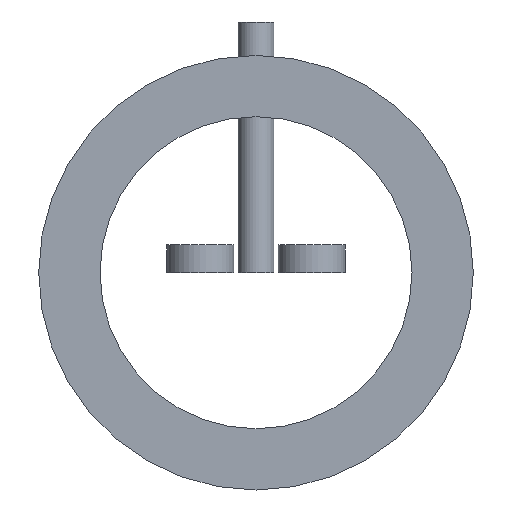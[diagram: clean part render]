
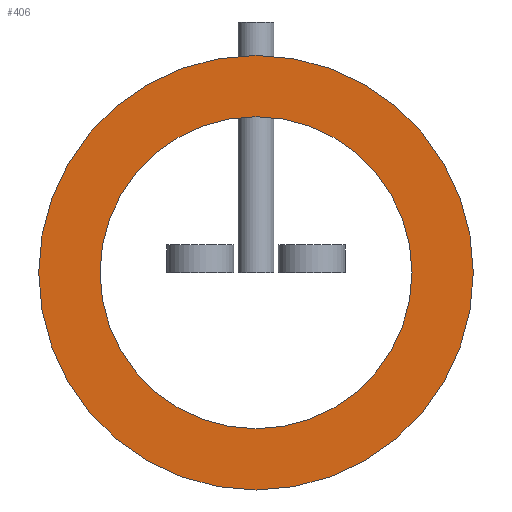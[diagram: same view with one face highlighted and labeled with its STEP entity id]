
A CAD part, front view. The second image highlights one B-rep face of the part: STEP entity #406.
In plain terms, the highlighted planar face has unit normal (0, -1, 0).
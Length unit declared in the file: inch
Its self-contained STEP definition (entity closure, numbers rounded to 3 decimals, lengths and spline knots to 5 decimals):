
#19 = EDGE_LOOP ( 'NONE', ( #327, #387 ) ) ;
#22 = CARTESIAN_POINT ( 'NONE',  ( 0., -137.79528, 0. ) ) ;
#27 = EDGE_CURVE ( 'NONE', #193, #155, #131, .T. ) ;
#33 = CARTESIAN_POINT ( 'NONE',  ( 0., -137.79528, 0. ) ) ;
#52 = AXIS2_PLACEMENT_3D ( 'NONE', #22, #425, #228 ) ;
#73 = CARTESIAN_POINT ( 'NONE',  ( 0., -137.79528, 0. ) ) ;
#85 = CARTESIAN_POINT ( 'NONE',  ( 0., -137.79528, -383.85827 ) ) ;
#89 = CARTESIAN_POINT ( 'NONE',  ( 0., -137.79528, 275.59055 ) ) ;
#92 = CIRCLE ( 'NONE', #52, 275.59055 ) ;
#119 = ORIENTED_EDGE ( 'NONE', *, *, #265, .T. ) ;
#131 = CIRCLE ( 'NONE', #451, 275.59055 ) ;
#132 = VERTEX_POINT ( 'NONE', #85 ) ;
#155 = VERTEX_POINT ( 'NONE', #89 ) ;
#185 = DIRECTION ( 'NONE',  ( 0., 1., 0. ) ) ;
#186 = EDGE_LOOP ( 'NONE', ( #119, #394 ) ) ;
#193 = VERTEX_POINT ( 'NONE', #321 ) ;
#207 = VERTEX_POINT ( 'NONE', #285 ) ;
#222 = CARTESIAN_POINT ( 'NONE',  ( 0., -137.79528, 0. ) ) ;
#228 = DIRECTION ( 'NONE',  ( 0., 0., 1. ) ) ;
#238 = DIRECTION ( 'NONE',  ( 0., 0., 1. ) ) ;
#245 = EDGE_CURVE ( 'NONE', #132, #207, #495, .T. ) ;
#247 = DIRECTION ( 'NONE',  ( 0., 1., 0. ) ) ;
#257 = AXIS2_PLACEMENT_3D ( 'NONE', #73, #185, #461 ) ;
#265 = EDGE_CURVE ( 'NONE', #155, #193, #92, .T. ) ;
#285 = CARTESIAN_POINT ( 'NONE',  ( 0., -137.79528, 383.85827 ) ) ;
#308 = FACE_BOUND ( 'NONE', #186, .T. ) ;
#316 = PLANE ( 'NONE',  #257 ) ;
#321 = CARTESIAN_POINT ( 'NONE',  ( 0., -137.79528, -275.59055 ) ) ;
#327 = ORIENTED_EDGE ( 'NONE', *, *, #388, .F. ) ;
#340 = DIRECTION ( 'NONE',  ( 0., 0., 1. ) ) ;
#346 = DIRECTION ( 'NONE',  ( 0., 1., 0. ) ) ;
#356 = FACE_OUTER_BOUND ( 'NONE', #19, .T. ) ;
#361 = AXIS2_PLACEMENT_3D ( 'NONE', #33, #374, #340 ) ;
#374 = DIRECTION ( 'NONE',  ( 0., 1., 0. ) ) ;
#387 = ORIENTED_EDGE ( 'NONE', *, *, #245, .F. ) ;
#388 = EDGE_CURVE ( 'NONE', #207, #132, #488, .T. ) ;
#394 = ORIENTED_EDGE ( 'NONE', *, *, #27, .T. ) ;
#401 = DIRECTION ( 'NONE',  ( 0., 0., 1. ) ) ;
#406 = ADVANCED_FACE ( 'NONE', ( #308, #356 ), #316, .F. ) ;
#425 = DIRECTION ( 'NONE',  ( 0., 1., 0. ) ) ;
#437 = CARTESIAN_POINT ( 'NONE',  ( 0., -137.79528, 0. ) ) ;
#451 = AXIS2_PLACEMENT_3D ( 'NONE', #437, #247, #401 ) ;
#461 = DIRECTION ( 'NONE',  ( 0., 0., 1. ) ) ;
#488 = CIRCLE ( 'NONE', #501, 383.85827 ) ;
#495 = CIRCLE ( 'NONE', #361, 383.85827 ) ;
#501 = AXIS2_PLACEMENT_3D ( 'NONE', #222, #346, #238 ) ;
